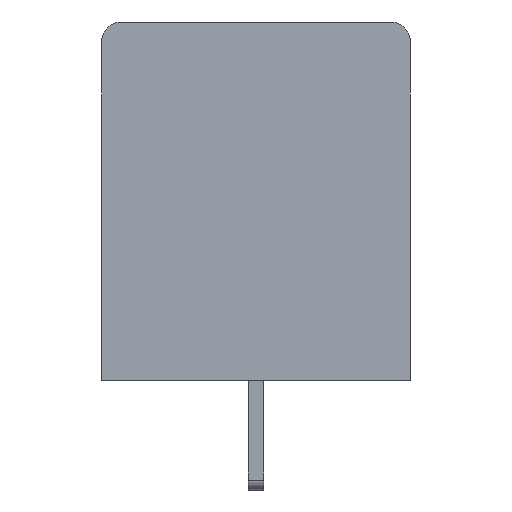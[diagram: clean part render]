
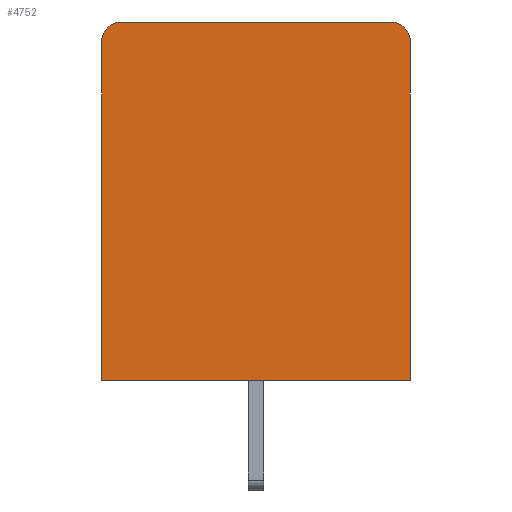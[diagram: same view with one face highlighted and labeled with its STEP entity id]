
A CAD part, left-side view. The second image highlights one B-rep face of the part: STEP entity #4752.
In plain terms, the highlighted planar face has unit normal (-1, 0, 0).
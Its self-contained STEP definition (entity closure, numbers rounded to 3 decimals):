
#12 = DIRECTION ( 'NONE',  ( 0., 0., -1. ) ) ;
#61 = CARTESIAN_POINT ( 'NONE',  ( 0., -7.75, 0. ) ) ;
#161 = DIRECTION ( 'NONE',  ( 0., 0., -1. ) ) ;
#254 = CIRCLE ( 'NONE', #3499, 1. ) ;
#482 = VECTOR ( 'NONE', #3489, 1000. ) ;
#503 = DIRECTION ( 'NONE',  ( -1., 0., 0. ) ) ;
#511 = CARTESIAN_POINT ( 'NONE',  ( 0., -7.75, 17. ) ) ;
#525 = DIRECTION ( 'NONE',  ( 1., 0., 0. ) ) ;
#559 = CIRCLE ( 'NONE', #1061, 1. ) ;
#684 = VECTOR ( 'NONE', #2547, 1000. ) ;
#705 = CARTESIAN_POINT ( 'NONE',  ( 0., 6.75, 17. ) ) ;
#1061 = AXIS2_PLACEMENT_3D ( 'NONE', #705, #3955, #161 ) ;
#1124 = ORIENTED_EDGE ( 'NONE', *, *, #5232, .T. ) ;
#1330 = PLANE ( 'NONE',  #3887 ) ;
#1336 = DIRECTION ( 'NONE',  ( 0., 0., -1. ) ) ;
#1366 = LINE ( 'NONE', #4614, #3564 ) ;
#1505 = ORIENTED_EDGE ( 'NONE', *, *, #3029, .T. ) ;
#1873 = CARTESIAN_POINT ( 'NONE',  ( 0., -7.75, 0. ) ) ;
#1903 = ORIENTED_EDGE ( 'NONE', *, *, #4213, .F. ) ;
#1968 = VERTEX_POINT ( 'NONE', #2529 ) ;
#2137 = VERTEX_POINT ( 'NONE', #3478 ) ;
#2195 = DIRECTION ( 'NONE',  ( 0., 0., -1. ) ) ;
#2229 = LINE ( 'NONE', #1873, #482 ) ;
#2242 = FACE_OUTER_BOUND ( 'NONE', #5190, .T. ) ;
#2529 = CARTESIAN_POINT ( 'NONE',  ( 0., 7.75, 0. ) ) ;
#2547 = DIRECTION ( 'NONE',  ( 0., -1., 0. ) ) ;
#2563 = CARTESIAN_POINT ( 'NONE',  ( 0., -7.75, 18. ) ) ;
#2607 = VERTEX_POINT ( 'NONE', #511 ) ;
#2802 = VERTEX_POINT ( 'NONE', #4947 ) ;
#2809 = EDGE_CURVE ( 'NONE', #3702, #2137, #4522, .T. ) ;
#2868 = ORIENTED_EDGE ( 'NONE', *, *, #4691, .T. ) ;
#2931 = CARTESIAN_POINT ( 'NONE',  ( 0., -6.75, 17. ) ) ;
#2966 = CARTESIAN_POINT ( 'NONE',  ( 0., -7.75, 18. ) ) ;
#3029 = EDGE_CURVE ( 'NONE', #2607, #2137, #254, .T. ) ;
#3120 = VECTOR ( 'NONE', #2195, 1000. ) ;
#3348 = CARTESIAN_POINT ( 'NONE',  ( 0., 7.75, 18. ) ) ;
#3378 = CARTESIAN_POINT ( 'NONE',  ( 0., 6.75, 18. ) ) ;
#3469 = EDGE_CURVE ( 'NONE', #2802, #1968, #3759, .T. ) ;
#3478 = CARTESIAN_POINT ( 'NONE',  ( 0., -6.75, 18. ) ) ;
#3489 = DIRECTION ( 'NONE',  ( 0., -1., 0. ) ) ;
#3499 = AXIS2_PLACEMENT_3D ( 'NONE', #2931, #503, #1336 ) ;
#3564 = VECTOR ( 'NONE', #4193, 1000. ) ;
#3702 = VERTEX_POINT ( 'NONE', #3378 ) ;
#3759 = LINE ( 'NONE', #3348, #3120 ) ;
#3887 = AXIS2_PLACEMENT_3D ( 'NONE', #2563, #525, #12 ) ;
#3955 = DIRECTION ( 'NONE',  ( -1., 0., 0. ) ) ;
#4193 = DIRECTION ( 'NONE',  ( 0., 0., -1. ) ) ;
#4213 = EDGE_CURVE ( 'NONE', #2607, #4917, #1366, .T. ) ;
#4293 = ORIENTED_EDGE ( 'NONE', *, *, #2809, .F. ) ;
#4373 = ORIENTED_EDGE ( 'NONE', *, *, #3469, .T. ) ;
#4522 = LINE ( 'NONE', #2966, #684 ) ;
#4614 = CARTESIAN_POINT ( 'NONE',  ( 0., -7.75, 18. ) ) ;
#4691 = EDGE_CURVE ( 'NONE', #3702, #2802, #559, .T. ) ;
#4752 = ADVANCED_FACE ( 'NONE', ( #2242 ), #1330, .F. ) ;
#4917 = VERTEX_POINT ( 'NONE', #61 ) ;
#4947 = CARTESIAN_POINT ( 'NONE',  ( 0., 7.75, 17. ) ) ;
#5190 = EDGE_LOOP ( 'NONE', ( #4293, #2868, #4373, #1124, #1903, #1505 ) ) ;
#5232 = EDGE_CURVE ( 'NONE', #1968, #4917, #2229, .T. ) ;
